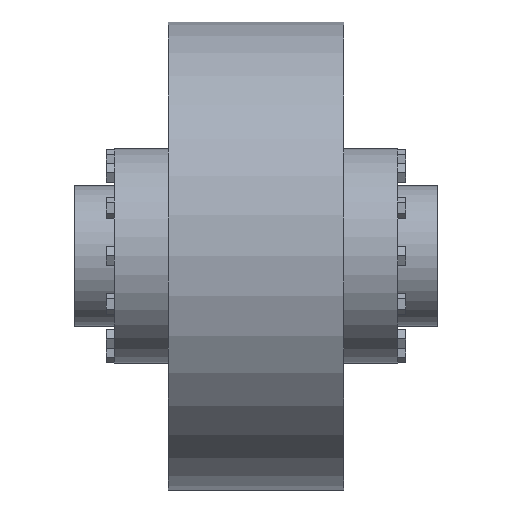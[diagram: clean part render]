
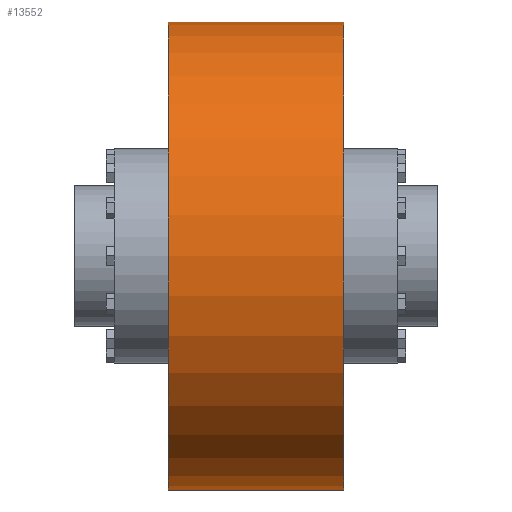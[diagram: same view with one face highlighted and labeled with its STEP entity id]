
A CAD part, top view. The second image highlights one B-rep face of the part: STEP entity #13552.
In plain terms, the highlighted cylindrical face has radius 100 mm (diameter 200 mm), a partial arc.
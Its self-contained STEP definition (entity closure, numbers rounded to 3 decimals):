
#13304=CARTESIAN_POINT('',(37.5,0.,0.));
#13305=DIRECTION('',(1.,0.,0.));
#13306=DIRECTION('',(0.,1.,0.));
#13307=AXIS2_PLACEMENT_3D('',#13304,#13305,#13306);
#13309=DIRECTION('',(-1.,0.,0.));
#13310=VECTOR('',#13309,75.);
#13311=CARTESIAN_POINT('',(37.5,100.,0.));
#13312=LINE('',#13311,#13310);
#13313=DIRECTION('',(-1.,0.,0.));
#13314=VECTOR('',#13313,75.);
#13315=CARTESIAN_POINT('',(37.5,-100.,0.));
#13316=LINE('',#13315,#13314);
#13327=CARTESIAN_POINT('',(-37.5,0.,0.));
#13328=DIRECTION('',(1.,0.,0.));
#13329=DIRECTION('',(0.,1.,0.));
#13330=AXIS2_PLACEMENT_3D('',#13327,#13328,#13329);
#13384=CARTESIAN_POINT('',(37.5,100.,0.));
#13385=CARTESIAN_POINT('',(-37.5,100.,0.));
#13386=VERTEX_POINT('',#13384);
#13387=VERTEX_POINT('',#13385);
#13392=CARTESIAN_POINT('',(37.5,-100.,0.));
#13393=CARTESIAN_POINT('',(-37.5,-100.,0.));
#13394=VERTEX_POINT('',#13392);
#13395=VERTEX_POINT('',#13393);
#13538=CARTESIAN_POINT('',(-41.25,0.,0.));
#13539=DIRECTION('',(1.,0.,0.));
#13540=DIRECTION('',(0.,-1.,0.));
#13541=AXIS2_PLACEMENT_3D('',#13538,#13539,#13540);
#13542=CYLINDRICAL_SURFACE('',#13541,100.);
#13544=ORIENTED_EDGE('',*,*,#13543,.F.);
#13545=ORIENTED_EDGE('',*,*,#13527,.T.);
#13547=ORIENTED_EDGE('',*,*,#13546,.T.);
#13549=ORIENTED_EDGE('',*,*,#13548,.F.);
#13550=EDGE_LOOP('',(#13544,#13545,#13547,#13549));
#13551=FACE_OUTER_BOUND('',#13550,.F.);
#13552=ADVANCED_FACE('',(#13551),#13542,.T.);
#13308=CIRCLE('',#13307,100.);
#13331=CIRCLE('',#13330,100.);
#13527=EDGE_CURVE('',#13386,#13394,#13308,.T.);
#13543=EDGE_CURVE('',#13386,#13387,#13312,.T.);
#13546=EDGE_CURVE('',#13394,#13395,#13316,.T.);
#13548=EDGE_CURVE('',#13387,#13395,#13331,.T.);
